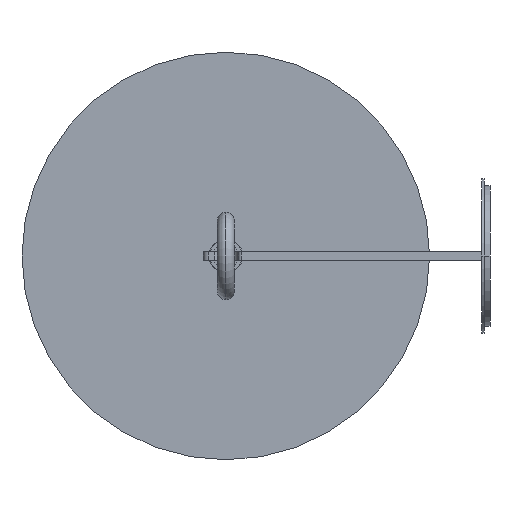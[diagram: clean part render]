
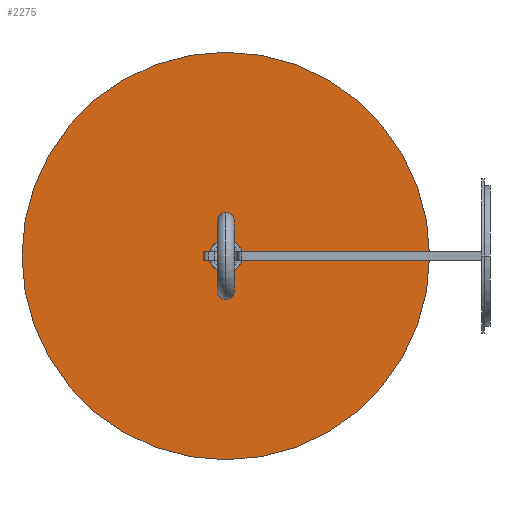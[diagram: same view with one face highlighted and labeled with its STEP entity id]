
A CAD part, front view. The second image highlights one B-rep face of the part: STEP entity #2275.
In plain terms, the highlighted planar face has unit normal (0, -1, 0).
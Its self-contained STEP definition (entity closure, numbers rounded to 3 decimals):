
#65 = EDGE_CURVE ( 'NONE', #80, #2466, #89, .T. ) ;
#75 = DIRECTION ( 'NONE',  ( 0., 0., 1. ) ) ;
#80 = VERTEX_POINT ( 'NONE', #1741 ) ;
#89 = CIRCLE ( 'NONE', #1860, 3. ) ;
#117 = ORIENTED_EDGE ( 'NONE', *, *, #902, .T. ) ;
#164 = DIRECTION ( 'NONE',  ( 0., 1., 0. ) ) ;
#167 = DIRECTION ( 'NONE',  ( 0., 0., 1. ) ) ;
#243 = ORIENTED_EDGE ( 'NONE', *, *, #65, .T. ) ;
#278 = CARTESIAN_POINT ( 'NONE',  ( 0., -2., 0. ) ) ;
#575 = CARTESIAN_POINT ( 'NONE',  ( 0., -2., 5.25 ) ) ;
#694 = CIRCLE ( 'NONE', #2000, 3. ) ;
#728 = CARTESIAN_POINT ( 'NONE',  ( 0., -2., -5.25 ) ) ;
#902 = EDGE_CURVE ( 'NONE', #3540, #8702, #694, .T. ) ;
#1196 = EDGE_CURVE ( 'NONE', #6522, #8245, #10241, .T. ) ;
#1224 = ORIENTED_EDGE ( 'NONE', *, *, #7803, .T. ) ;
#1245 = CARTESIAN_POINT ( 'NONE',  ( 12.5, -2., 0. ) ) ;
#1305 = CARTESIAN_POINT ( 'NONE',  ( 12.5, -2., -3. ) ) ;
#1404 = DIRECTION ( 'NONE',  ( 0., 0., 1. ) ) ;
#1652 = DIRECTION ( 'NONE',  ( 0., 1., 0. ) ) ;
#1741 = CARTESIAN_POINT ( 'NONE',  ( -12.5, -2., 3. ) ) ;
#1778 = EDGE_CURVE ( 'NONE', #3693, #6454, #2289, .T. ) ;
#1860 = AXIS2_PLACEMENT_3D ( 'NONE', #8918, #4951, #167 ) ;
#2000 = AXIS2_PLACEMENT_3D ( 'NONE', #4133, #1652, #75 ) ;
#2273 = DIRECTION ( 'NONE',  ( 0., 0., 1. ) ) ;
#2275 = ADVANCED_FACE ( 'NONE', ( #5008, #3265, #4521, #9864 ), #3392, .F. ) ;
#2289 = CIRCLE ( 'NONE', #6529, 72.5 ) ;
#2466 = VERTEX_POINT ( 'NONE', #4736 ) ;
#2764 = DIRECTION ( 'NONE',  ( 0., 1., 0. ) ) ;
#2916 = EDGE_CURVE ( 'NONE', #8702, #3540, #4765, .T. ) ;
#3185 = EDGE_LOOP ( 'NONE', ( #3714, #8338 ) ) ;
#3265 = FACE_BOUND ( 'NONE', #8420, .T. ) ;
#3323 = CARTESIAN_POINT ( 'NONE',  ( 0., -2., 0. ) ) ;
#3392 = PLANE ( 'NONE',  #10209 ) ;
#3540 = VERTEX_POINT ( 'NONE', #4608 ) ;
#3693 = VERTEX_POINT ( 'NONE', #8674 ) ;
#3707 = EDGE_CURVE ( 'NONE', #6454, #3693, #9965, .T. ) ;
#3714 = ORIENTED_EDGE ( 'NONE', *, *, #5549, .T. ) ;
#4133 = CARTESIAN_POINT ( 'NONE',  ( 12.5, -2., 0. ) ) ;
#4212 = DIRECTION ( 'NONE',  ( 0., 1., 0. ) ) ;
#4345 = CIRCLE ( 'NONE', #4501, 5.25 ) ;
#4501 = AXIS2_PLACEMENT_3D ( 'NONE', #278, #4212, #8949 ) ;
#4521 = FACE_BOUND ( 'NONE', #3185, .T. ) ;
#4608 = CARTESIAN_POINT ( 'NONE',  ( 12.5, -2., 3. ) ) ;
#4736 = CARTESIAN_POINT ( 'NONE',  ( -12.5, -2., -3. ) ) ;
#4765 = CIRCLE ( 'NONE', #7542, 3. ) ;
#4951 = DIRECTION ( 'NONE',  ( 0., 1., 0. ) ) ;
#5008 = FACE_BOUND ( 'NONE', #6873, .T. ) ;
#5066 = CARTESIAN_POINT ( 'NONE',  ( 0., -2., 0. ) ) ;
#5068 = ORIENTED_EDGE ( 'NONE', *, *, #2916, .T. ) ;
#5438 = CARTESIAN_POINT ( 'NONE',  ( 0., -2., -72.5 ) ) ;
#5549 = EDGE_CURVE ( 'NONE', #8245, #6522, #4345, .T. ) ;
#5688 = DIRECTION ( 'NONE',  ( 0., 1., 0. ) ) ;
#5698 = DIRECTION ( 'NONE',  ( 0., 1., 0. ) ) ;
#5888 = CARTESIAN_POINT ( 'NONE',  ( 0., -2., 0. ) ) ;
#5990 = DIRECTION ( 'NONE',  ( 0., 0., 1. ) ) ;
#6410 = EDGE_LOOP ( 'NONE', ( #7635, #8417 ) ) ;
#6454 = VERTEX_POINT ( 'NONE', #5438 ) ;
#6515 = DIRECTION ( 'NONE',  ( 0., 0., 1. ) ) ;
#6522 = VERTEX_POINT ( 'NONE', #728 ) ;
#6529 = AXIS2_PLACEMENT_3D ( 'NONE', #3323, #5688, #9640 ) ;
#6873 = EDGE_LOOP ( 'NONE', ( #243, #1224 ) ) ;
#7022 = DIRECTION ( 'NONE',  ( 0., 1., 0. ) ) ;
#7542 = AXIS2_PLACEMENT_3D ( 'NONE', #1245, #7605, #1404 ) ;
#7605 = DIRECTION ( 'NONE',  ( 0., 1., 0. ) ) ;
#7635 = ORIENTED_EDGE ( 'NONE', *, *, #1778, .F. ) ;
#7803 = EDGE_CURVE ( 'NONE', #2466, #80, #8143, .T. ) ;
#8004 = CARTESIAN_POINT ( 'NONE',  ( -12.5, -2., 0. ) ) ;
#8143 = CIRCLE ( 'NONE', #9443, 3. ) ;
#8245 = VERTEX_POINT ( 'NONE', #575 ) ;
#8338 = ORIENTED_EDGE ( 'NONE', *, *, #1196, .T. ) ;
#8417 = ORIENTED_EDGE ( 'NONE', *, *, #3707, .F. ) ;
#8420 = EDGE_LOOP ( 'NONE', ( #117, #5068 ) ) ;
#8674 = CARTESIAN_POINT ( 'NONE',  ( 0., -2., 72.5 ) ) ;
#8702 = VERTEX_POINT ( 'NONE', #1305 ) ;
#8880 = DIRECTION ( 'NONE',  ( 0., 0., 1. ) ) ;
#8918 = CARTESIAN_POINT ( 'NONE',  ( -12.5, -2., 0. ) ) ;
#8949 = DIRECTION ( 'NONE',  ( 0., 0., 1. ) ) ;
#9135 = AXIS2_PLACEMENT_3D ( 'NONE', #5888, #2764, #5990 ) ;
#9420 = CARTESIAN_POINT ( 'NONE',  ( 0., -2., 0. ) ) ;
#9443 = AXIS2_PLACEMENT_3D ( 'NONE', #8004, #164, #8880 ) ;
#9640 = DIRECTION ( 'NONE',  ( 0., 0., 1. ) ) ;
#9864 = FACE_OUTER_BOUND ( 'NONE', #6410, .T. ) ;
#9965 = CIRCLE ( 'NONE', #10141, 72.5 ) ;
#10141 = AXIS2_PLACEMENT_3D ( 'NONE', #9420, #7022, #2273 ) ;
#10209 = AXIS2_PLACEMENT_3D ( 'NONE', #5066, #5698, #6515 ) ;
#10241 = CIRCLE ( 'NONE', #9135, 5.25 ) ;
